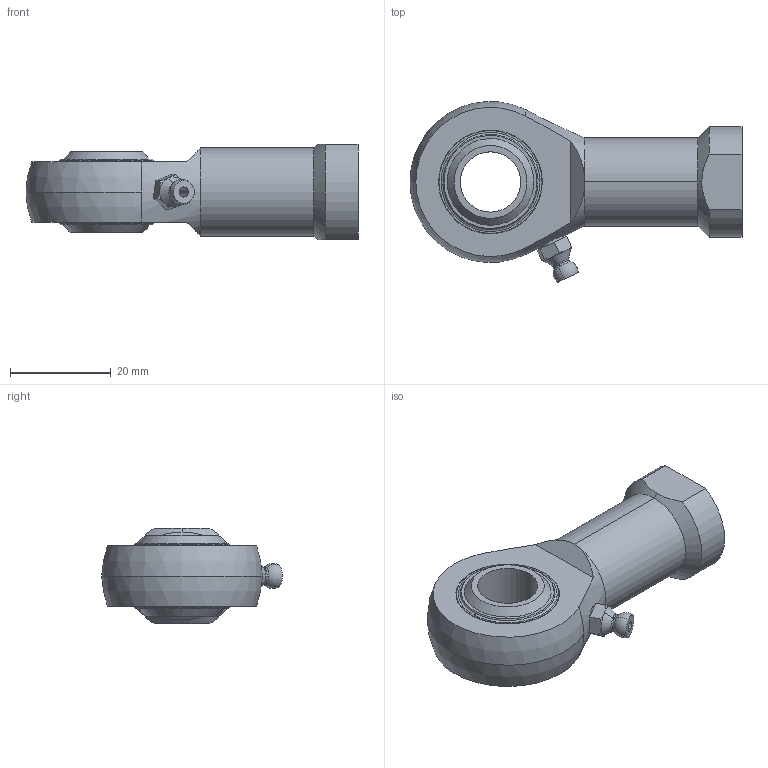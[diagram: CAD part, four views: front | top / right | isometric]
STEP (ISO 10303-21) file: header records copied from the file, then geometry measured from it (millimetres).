
FILE_DESCRIPTION (( 'STEP AP203' ), '1' );
FILE_NAME ('65760.W0112.step', '2014-02-11T16:41:56', ( 'User' ), ( '' ), 'SwSTEP 2.0', 'SolidWorks 2009', '' );
FILE_SCHEMA (( 'CONFIG_CONTROL_DESIGN' ));
Length unit declared in the file: millimetre
Products named in the file (5): 65760.W0112; Part1_65760.W0112; Part2_65760.W0112; Part3_M5; Part4_65760.W0112
Assembly tree (5 placements, depth 2):
  65760.W0112
    Part4_65760.W0112  x2
    Part2_65760.W0112
    Part1_65760.W0112
    Part3_M5
Bounding box: 66 x 35.92 x 19 mm (x, y, z)
Volume: 14641.2 mm3; surface area: 10430.5 mm2
Topology: 46 solids, 46 shells, 183 faces, 524 edges, 353 vertices
Faces by surface type: sphere 98, plane 27, torus 22, cylinder 20, cone 16
Entity records: 4803 total; most frequent: CARTESIAN_POINT 897, DIRECTION 814, ORIENTED_EDGE 558, AXIS2_PLACEMENT_3D 385, EDGE_CURVE 279, VERTEX_POINT 208, CIRCLE 207, EDGE_LOOP 189
